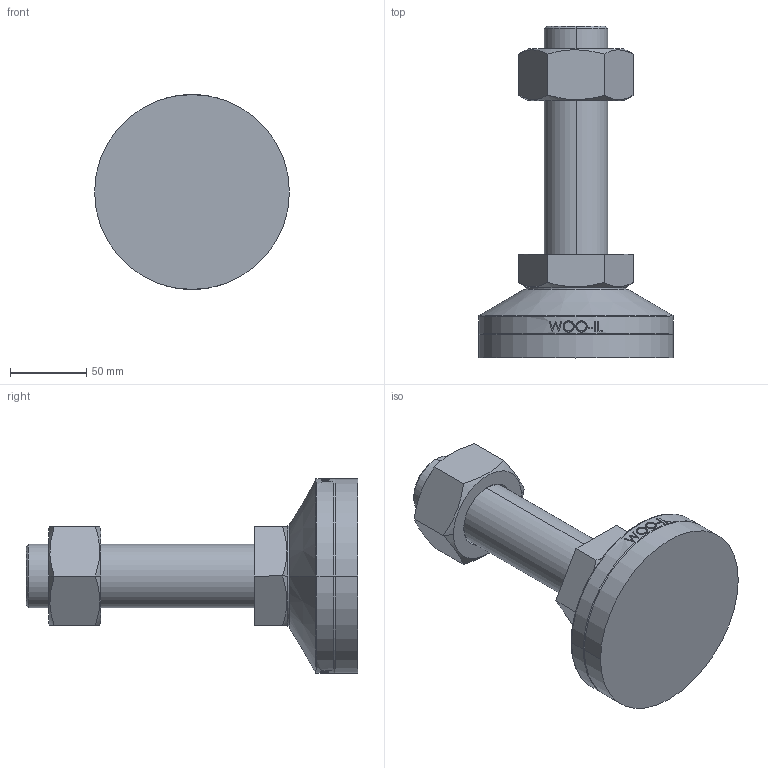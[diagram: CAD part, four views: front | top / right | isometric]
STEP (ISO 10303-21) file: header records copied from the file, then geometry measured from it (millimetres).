
FILE_DESCRIPTION (( 'STEP AP214' ), '1' );
FILE_NAME ('MFR128-M42-150.step', '2021-01-15T08:02:30', ( '' ), ( '' ), 'SwSTEP 2.0', 'SolidWorks 2019', '' );
FILE_SCHEMA (( 'AUTOMOTIVE_DESIGN' ));
Length unit declared in the file: millimetre
Products named in the file (2): MFR128-M42-150
Bounding box: 128 x 218 x 128 mm (x, y, z)
Volume: 850596.6 mm3; surface area: 131621 mm2
Topology: 4 solids, 4 shells, 154 faces, 364 edges, 236 vertices
Faces by surface type: plane 82, bspline 32, cylinder 20, cone 14, torus 6
Entity records: 7300 total; most frequent: CARTESIAN_POINT 3918, ORIENTED_EDGE 728, DIRECTION 588, EDGE_CURVE 364, VERTEX_POINT 236, AXIS2_PLACEMENT_3D 206, LINE 176, VECTOR 176
